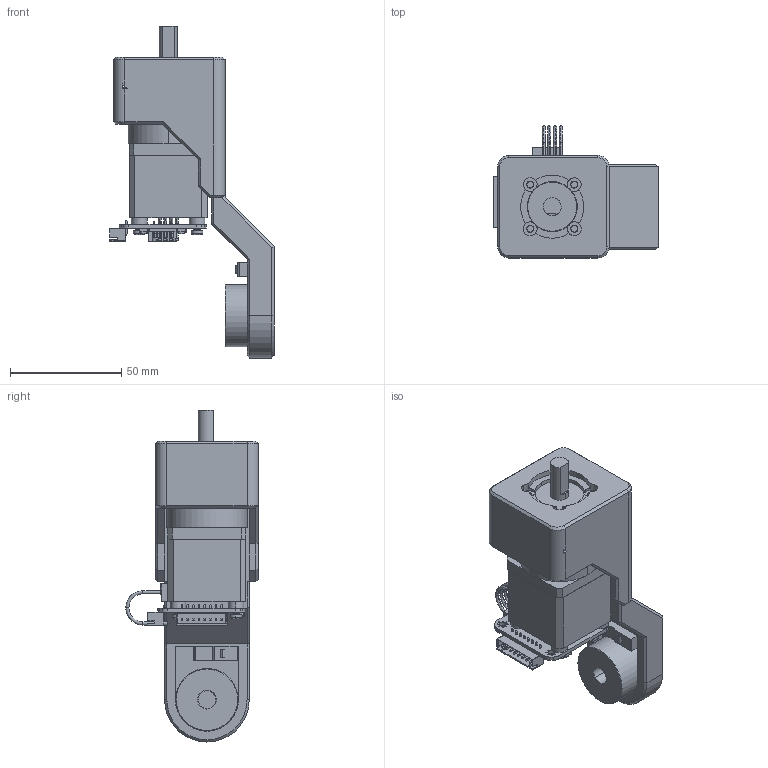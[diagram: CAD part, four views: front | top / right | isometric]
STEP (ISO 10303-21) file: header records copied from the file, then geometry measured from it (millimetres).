
FILE_DESCRIPTION(('Open CASCADE Model'),'2;1');
FILE_NAME('Open CASCADE Shape Model','2026-09-19T11:07:59',('Author'),( 'Open CASCADE'),'Open CASCADE STEP processor 7.9','Open CASCADE 7.9' ,'Unknown');
FILE_SCHEMA(('AUTOMOTIVE_DESIGN { 1 0 10303 214 1 1 1 1 }'));
Length unit declared in the file: millimetre
Products named in the file (31): Open CASCADE STEP translator 7.9 56; Open CASCADE STEP translator 7.9 56.1; Open CASCADE STEP translator 7.9 56.2; Open CASCADE STEP translator 7.9 56.2.1; Open CASCADE STEP translator 7.9 56.2.1.1; Open CASCADE STEP translator 7.9 56.2.1.1.1; Open CASCADE STEP translator 7.9 56.2.1.1.2; Open CASCADE STEP translator 7.9 56.2.1.1.2.1; Open CASCADE STEP translator 7.9 56.2.1.1.2.1.1; Open CASCADE STEP translator 7.9 56.2.1.1.2.1.2; Open CASCADE STEP translator 7.9 56.2.1.1.2.1.3; Open CASCADE STEP translator 7.9 56.2.1.1.3; Open CASCADE STEP translator 7.9 56.2.1.1.4; Open CASCADE STEP translator 7.9 56.2.1.1.4.1; Open CASCADE STEP translator 7.9 56.2.1.1.4.2; Open CASCADE STEP translator 7.9 56.2.1.1.5; Open CASCADE STEP translator 7.9 56.2.1.1.6; Open CASCADE STEP translator 7.9 56.2.1.2; Open CASCADE STEP translator 7.9 56.2.1.2.1; Open CASCADE STEP translator 7.9 56.2.1.2.2; Open CASCADE STEP translator 7.9 56.2.1.3; Open CASCADE STEP translator 7.9 56.2.1.7; Open CASCADE STEP translator 7.9 56.2.1.11; Open CASCADE STEP translator 7.9 56.2.1.11.1; Open CASCADE STEP translator 7.9 56.2.1.11.2; Open CASCADE STEP translator 7.9 56.2.1.11.3; Open CASCADE STEP translator 7.9 56.2.1.11.4; Open CASCADE STEP translator 7.9 56.3; Open CASCADE STEP translator 7.9 56.4; Open CASCADE STEP translator 7.9 56.5; Open CASCADE STEP translator 7.9 56.6
Assembly tree (37 placements, depth 7):
  Open CASCADE STEP translator 7.9 56
    Open CASCADE STEP translator 7.9 56.1
    Open CASCADE STEP translator 7.9 56.2
      Open CASCADE STEP translator 7.9 56.2.1
        Open CASCADE STEP translator 7.9 56.2.1.1
          Open CASCADE STEP translator 7.9 56.2.1.1.1
          Open CASCADE STEP translator 7.9 56.2.1.1.2
            Open CASCADE STEP translator 7.9 56.2.1.1.2.1
              Open CASCADE STEP translator 7.9 56.2.1.1.2.1.1
              Open CASCADE STEP translator 7.9 56.2.1.1.2.1.2
              Open CASCADE STEP translator 7.9 56.2.1.1.2.1.3
          Open CASCADE STEP translator 7.9 56.2.1.1.3
          Open CASCADE STEP translator 7.9 56.2.1.1.4
            Open CASCADE STEP translator 7.9 56.2.1.1.4.1
            Open CASCADE STEP translator 7.9 56.2.1.1.4.2
          Open CASCADE STEP translator 7.9 56.2.1.1.5
          Open CASCADE STEP translator 7.9 56.2.1.1.6
        Open CASCADE STEP translator 7.9 56.2.1.2
          Open CASCADE STEP translator 7.9 56.2.1.2.1
          Open CASCADE STEP translator 7.9 56.2.1.2.2
        Open CASCADE STEP translator 7.9 56.2.1.3  x4
        Open CASCADE STEP translator 7.9 56.2.1.7  x4
        Open CASCADE STEP translator 7.9 56.2.1.11
          Open CASCADE STEP translator 7.9 56.2.1.11.1
          Open CASCADE STEP translator 7.9 56.2.1.11.2
          Open CASCADE STEP translator 7.9 56.2.1.11.3
          Open CASCADE STEP translator 7.9 56.2.1.11.4
    Open CASCADE STEP translator 7.9 56.3
    Open CASCADE STEP translator 7.9 56.4
    Open CASCADE STEP translator 7.9 56.5
    Open CASCADE STEP translator 7.9 56.6  x2
Bounding box: 73.65 x 59.4 x 149 mm (x, y, z)
Volume: 156467.1 mm3; surface area: 54826.4 mm2
Topology: 29 solids, 29 shells, 2342 faces, 6288 edges, 4121 vertices
Faces by surface type: plane 1755, cylinder 477, cone 54, bspline 36, torus 20
Entity records: 146172 total; most frequent: CARTESIAN_POINT 29214, DIRECTION 21778, LINE 15481, VECTOR 15481, ORIENTED_EDGE 11508, PCURVE 11508, DEFINITIONAL_REPRESENTATION 11508, EDGE_CURVE 5754
